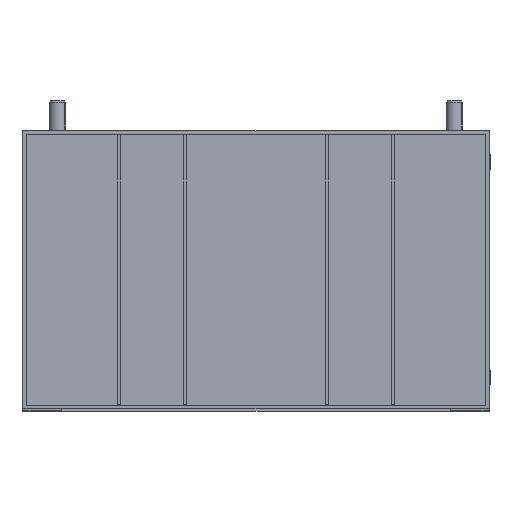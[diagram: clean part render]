
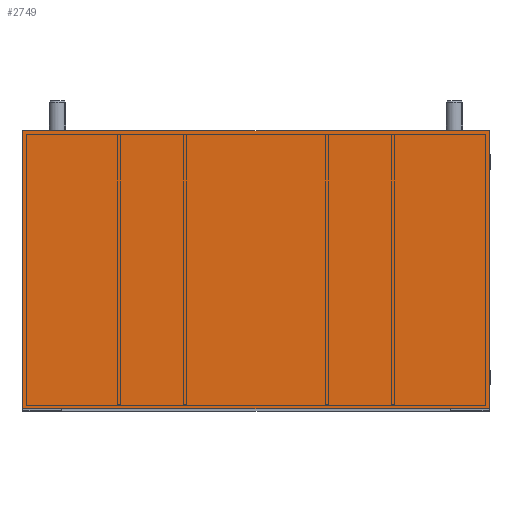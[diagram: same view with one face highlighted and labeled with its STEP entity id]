
A CAD part, top view. The second image highlights one B-rep face of the part: STEP entity #2749.
In plain terms, the highlighted planar face has unit normal (0, 0, 1) as drawn and (0, 0, -1) by its records, which use the part's own axes.
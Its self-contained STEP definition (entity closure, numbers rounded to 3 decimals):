
#184 = CARTESIAN_POINT ( 'NONE',  ( 0., 100., -2.5 ) ) ;
#316 = CARTESIAN_POINT ( 'NONE',  ( 167.75, -100., -2.5 ) ) ;
#418 = VERTEX_POINT ( 'NONE', #316 ) ;
#538 = DIRECTION ( 'NONE',  ( 0., 1., 0. ) ) ;
#699 = CARTESIAN_POINT ( 'NONE',  ( -167.75, 100., -2.5 ) ) ;
#918 = EDGE_CURVE ( 'NONE', #8156, #418, #10795, .T. ) ;
#958 = VECTOR ( 'NONE', #538, 1000. ) ;
#1480 = ORIENTED_EDGE ( 'NONE', *, *, #4290, .F. ) ;
#1600 = VECTOR ( 'NONE', #2125, 1000. ) ;
#2058 = AXIS2_PLACEMENT_3D ( 'NONE', #9319, #9254, #10278 ) ;
#2087 = CARTESIAN_POINT ( 'NONE',  ( 167.75, 100., -2.5 ) ) ;
#2125 = DIRECTION ( 'NONE',  ( 0., -1., 0. ) ) ;
#2393 = VECTOR ( 'NONE', #4367, 1000. ) ;
#2749 = ADVANCED_FACE ( 'NONE', ( #3895 ), #10415, .T. ) ;
#3483 = ORIENTED_EDGE ( 'NONE', *, *, #4106, .F. ) ;
#3895 = FACE_OUTER_BOUND ( 'NONE', #12981, .T. ) ;
#4018 = VECTOR ( 'NONE', #10933, 1000. ) ;
#4106 = EDGE_CURVE ( 'NONE', #6482, #8156, #6372, .T. ) ;
#4290 = EDGE_CURVE ( 'NONE', #418, #6074, #5744, .T. ) ;
#4367 = DIRECTION ( 'NONE',  ( -1., 0., 0. ) ) ;
#5119 = ORIENTED_EDGE ( 'NONE', *, *, #918, .F. ) ;
#5744 = LINE ( 'NONE', #10077, #958 ) ;
#6074 = VERTEX_POINT ( 'NONE', #2087 ) ;
#6372 = LINE ( 'NONE', #11394, #1600 ) ;
#6482 = VERTEX_POINT ( 'NONE', #699 ) ;
#7541 = LINE ( 'NONE', #184, #2393 ) ;
#8043 = EDGE_CURVE ( 'NONE', #6074, #6482, #7541, .T. ) ;
#8044 = ORIENTED_EDGE ( 'NONE', *, *, #8043, .F. ) ;
#8156 = VERTEX_POINT ( 'NONE', #8753 ) ;
#8753 = CARTESIAN_POINT ( 'NONE',  ( -167.75, -100., -2.5 ) ) ;
#9254 = DIRECTION ( 'NONE',  ( 0., 0., -1. ) ) ;
#9319 = CARTESIAN_POINT ( 'NONE',  ( 0., 0., -2.5 ) ) ;
#10077 = CARTESIAN_POINT ( 'NONE',  ( 167.75, 0., -2.5 ) ) ;
#10278 = DIRECTION ( 'NONE',  ( -1., 0., 0. ) ) ;
#10415 = PLANE ( 'NONE',  #2058 ) ;
#10795 = LINE ( 'NONE', #11679, #4018 ) ;
#10933 = DIRECTION ( 'NONE',  ( 1., 0., 0. ) ) ;
#11394 = CARTESIAN_POINT ( 'NONE',  ( -167.75, 0., -2.5 ) ) ;
#11679 = CARTESIAN_POINT ( 'NONE',  ( 0., -100., -2.5 ) ) ;
#12981 = EDGE_LOOP ( 'NONE', ( #1480, #5119, #3483, #8044 ) ) ;
